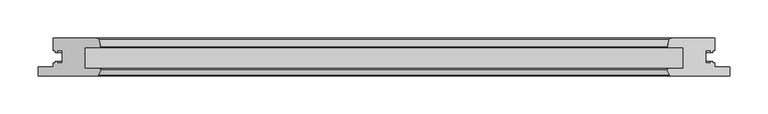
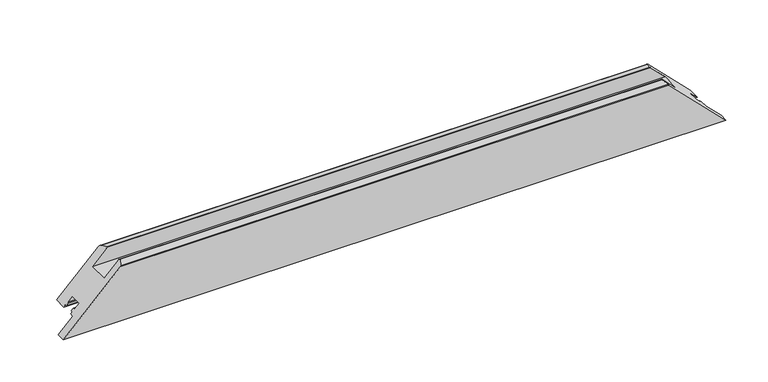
"""IFC4 building model written with IfcOpenShell, lengths in millimetres: proxy geometry, Weiku - Montante - Folha 02.2.01.017 : Weiku - Montante - Folha 02.2.01.017."""

from ifc_helpers import new_model, si_unit, frame, origin, place, context, project, spatial, ellipse_curve, source, transform, mapped, element, save
from ifc_brep_helpers import plane_surface, cylinder_surface, advanced_brep


def generic_models_3c9cb760(model_context):
    return source(origin(), model_context, "Body", "AdvancedBrep", [
        advanced_brep(
        [(-434.0, 50.0, 20.0), (-376.9997332, 50.0, 77.0002668), (376.9997332, 50.0, 77.0002668), (434.0, 50.0, 20.0), (-454.0, 0.0, 0.0), (454.0, 0.0, 0.0), (375.9872264, 0.0, 78.0127736), (-375.9872264, 0.0, 78.0127736), (-434.0, 33.1, 20.0), (-431.8, 33.1, 22.2), (-431.8, 31.1, 22.2), (-429.0, 31.1, 25.0), (-429.0, 33.1, 25.0), (-422.5, 33.1, 31.5), (-422.5, 16.9, 31.5), (-429.0, 16.9, 25.0), (-429.0, 18.9, 25.0), (-431.8, 18.9, 22.2), (-431.8, 16.9, 22.2), (-434.0, 16.9, 20.0), (-434.0, 11.5, 20.0), (-454.0, 11.5, 0.0), (-375.0932657, 0.5518546, 78.9067343), (-371.5512796, 7.617411, 82.4487204), (-372.7134285, 9.5, 81.2865715), (-392.5, 9.5, 61.5), (-392.5, 37.5, 61.5), (-372.0, 37.5, 82.0), (-371.5170371, 38.1294095, 82.4829629), (-374.1019557, 47.7764571, 79.8980443), (374.1019557, 47.7764571, 79.8980443), (371.5170371, 38.1294095, 82.4829629), (372.0, 37.5, 82.0), (392.5, 37.5, 61.5), (392.5, 9.5, 61.5), (372.7134285, 9.5, 81.2865715), (371.5512796, 7.617411, 82.4487204), (375.0932657, 0.5518546, 78.9067343), (454.0, 11.5, 0.0), (434.0, 11.5, 20.0), (434.0, 16.9, 20.0), (431.8, 16.9, 22.2), (431.8, 18.9, 22.2), (429.0, 18.9, 25.0), (429.0, 16.9, 25.0), (422.5, 16.9, 31.5), (422.5, 33.1, 31.5), (429.0, 33.1, 25.0), (429.0, 31.1, 25.0), (431.8, 31.1, 22.2), (431.8, 33.1, 22.2), (434.0, 33.1, 20.0)],
        [
            (0, 1),
            (1, 2),
            (2, 3),
            (3, 0),
            (4, 5),
            (5, 6),
            (6, 7),
            (7, 4),
            (0, 8),
            (8, 9),
            (9, 10),
            (10, 11),
            (11, 12),
            (12, 13),
            (13, 14),
            (14, 15),
            (15, 16),
            (16, 17),
            (17, 18),
            (18, 19),
            (19, 20),
            (20, 21),
            (21, 4),
            (7, 22, ellipse_curve(frame((-375.9872264, 1.0, 78.0127736), z_axis=(-0.7071067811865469, 0.0, 0.7071067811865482), x_axis=(-0.707106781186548, 0.0, -0.7071067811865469)), 1.4142136, 1.0)),
            (22, 23),
            (23, 24, ellipse_curve(frame((-372.7134285, 8.2, 81.2865715), z_axis=(-0.7071067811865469, 0.0, 0.7071067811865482), x_axis=(-0.707106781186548, 0.0, -0.7071067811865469)), 1.8384776, 1.3)),
            (24, 25),
            (25, 26),
            (26, 27),
            (27, 28, ellipse_curve(frame((-372.0, 38.0, 82.0), z_axis=(-0.7071067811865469, 0.0, 0.7071067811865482), x_axis=(-0.707106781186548, 0.0, -0.7071067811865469)), 0.7071068, 0.5)),
            (28, 29),
            (29, 1, ellipse_curve(frame((-376.9997332, 47.0, 77.0002668), z_axis=(-0.7071067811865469, 0.0, 0.7071067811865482), x_axis=(-0.707106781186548, 0.0, -0.7071067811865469)), 4.2426407, 3.0)),
            (2, 30, ellipse_curve(frame((376.9997332, 47.0, 77.0002668), z_axis=(0.7071067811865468, 0.0, 0.7071067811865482), x_axis=(-0.7071067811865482, 0.0, 0.7071067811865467)), 4.2426407, 3.0)),
            (30, 31),
            (31, 32, ellipse_curve(frame((372.0, 38.0, 82.0), z_axis=(0.7071067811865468, 0.0, 0.7071067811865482), x_axis=(-0.7071067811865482, 0.0, 0.7071067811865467)), 0.7071068, 0.5)),
            (32, 33),
            (33, 34),
            (34, 35),
            (35, 36, ellipse_curve(frame((372.7134285, 8.2, 81.2865715), z_axis=(0.7071067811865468, 0.0, 0.7071067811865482), x_axis=(-0.7071067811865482, 0.0, 0.7071067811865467)), 1.8384776, 1.3)),
            (36, 37),
            (37, 6, ellipse_curve(frame((375.9872264, 1.0, 78.0127736), z_axis=(0.7071067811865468, 0.0, 0.7071067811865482), x_axis=(-0.7071067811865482, 0.0, 0.7071067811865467)), 1.4142136, 1.0)),
            (5, 38),
            (38, 39),
            (39, 40),
            (40, 41),
            (41, 42),
            (42, 43),
            (43, 44),
            (44, 45),
            (45, 46),
            (46, 47),
            (47, 48),
            (48, 49),
            (49, 50),
            (50, 51),
            (51, 3),
            (37, 22),
            (36, 23),
            (35, 24),
            (34, 25),
            (33, 26),
            (32, 27),
            (31, 28),
            (30, 29),
            (51, 8),
            (50, 9),
            (49, 10),
            (48, 11),
            (47, 12),
            (46, 13),
            (45, 14),
            (44, 15),
            (43, 16),
            (42, 17),
            (41, 18),
            (40, 19),
            (39, 20),
            (38, 21),
        ],
        [
            plane_surface(frame((-454.0, 50.0, 77.0002668), z_axis=(0.0, 1.0, 0.0), x_axis=(1.0, 0.0, 0.0))),
            plane_surface(frame((-454.0, 0.0, 0.0), z_axis=(0.0, -1.0, 0.0), x_axis=(1.0, 0.0, 0.0))),
            plane_surface(frame((-482.2842712, 0.0, -28.2842712), z_axis=(-0.7071067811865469, 0.0, 0.7071067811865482), x_axis=(0.0, 1.0, 0.0))),
            plane_surface(frame((364.0, 0.0, 90.0), z_axis=(0.7071067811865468, 0.0, 0.7071067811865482), x_axis=(0.0, 1.0, 0.0))),
            cylinder_surface(frame((-454.0, 1.0, 78.0127736), z_axis=(-1.0, 0.0, 0.0), x_axis=(0.0, 1.0, 0.0)), 1.0),
            plane_surface(frame((-454.0, 0.5518546, 78.9067343), z_axis=(0.0, -0.4481453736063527, 0.8939606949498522), x_axis=(1.0, 0.0, 0.0))),
            cylinder_surface(frame((-454.0, 8.2, 81.2865715), z_axis=(-1.0, 0.0, 0.0), x_axis=(0.0, 1.0, 0.0)), 1.3),
            plane_surface(frame((-454.0, 9.5, 81.2865715), z_axis=(0.0, 1.0, 0.0), x_axis=(1.0, 0.0, 0.0))),
            plane_surface(frame((-454.0, 9.5, 61.5), z_axis=(0.0, 0.0, 1.0), x_axis=(1.0, 0.0, 0.0))),
            plane_surface(frame((-454.0, 37.5, 61.5), z_axis=(0.0, -1.0, 0.0), x_axis=(1.0, 0.0, 0.0))),
            cylinder_surface(frame((-454.0, 38.0, 82.0), z_axis=(-1.0, 0.0, 0.0), x_axis=(0.0, 1.0, 0.0)), 0.5),
            plane_surface(frame((-454.0, 38.1294095, 82.4829629), z_axis=(0.0, 0.2588190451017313, 0.9659258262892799), x_axis=(1.0, 0.0, 0.0))),
            cylinder_surface(frame((-454.0, 47.0, 77.0002668), z_axis=(-1.0, 0.0, 0.0), x_axis=(0.0, 1.0, 0.0)), 3.0),
            plane_surface(frame((-454.0, 50.0, 20.0), z_axis=(0.0, 0.0, -1.0), x_axis=(1.0, 0.0, 0.0))),
            plane_surface(frame((-454.0, 33.1, 20.0), z_axis=(0.0, -1.0, 0.0), x_axis=(1.0, 0.0, 0.0))),
            plane_surface(frame((-454.0, 33.1, 22.2), z_axis=(0.0, 0.0, -1.0), x_axis=(1.0, 0.0, 0.0))),
            plane_surface(frame((-454.0, 31.1, 22.2), z_axis=(0.0, -1.0, 0.0), x_axis=(1.0, 0.0, 0.0))),
            plane_surface(frame((-454.0, 31.1, 25.0), z_axis=(0.0, 0.0, 1.0), x_axis=(1.0, 0.0, 0.0))),
            plane_surface(frame((-454.0, 33.1, 25.0), z_axis=(0.0, -1.0, 0.0), x_axis=(1.0, 0.0, 0.0))),
            plane_surface(frame((-454.0, 33.1, 31.5), z_axis=(0.0, 0.0, -1.0), x_axis=(1.0, 0.0, 0.0))),
            plane_surface(frame((-454.0, 16.9, 31.5), z_axis=(0.0, 1.0, 0.0), x_axis=(1.0, 0.0, 0.0))),
            plane_surface(frame((-454.0, 16.9, 25.0), z_axis=(0.0, 0.0, 1.0), x_axis=(1.0, 0.0, 0.0))),
            plane_surface(frame((-454.0, 18.9, 25.0), z_axis=(0.0, 1.0, 0.0), x_axis=(1.0, 0.0, 0.0))),
            plane_surface(frame((-454.0, 18.9, 22.2), z_axis=(0.0, 0.0, -1.0), x_axis=(1.0, 0.0, 0.0))),
            plane_surface(frame((-454.0, 16.9, 22.2), z_axis=(0.0, 1.0, 0.0), x_axis=(1.0, 0.0, 0.0))),
            plane_surface(frame((-454.0, 16.9, 20.0), z_axis=(0.0, 0.0, -1.0), x_axis=(1.0, 0.0, 0.0))),
            plane_surface(frame((-454.0, 11.5, 20.0), z_axis=(0.0, 1.0, 0.0), x_axis=(1.0, 0.0, 0.0))),
            plane_surface(frame((-454.0, 11.5, 0.0), z_axis=(0.0, 0.0, -1.0), x_axis=(1.0, 0.0, 0.0))),
        ],
        [
            (0, [[1, 2, 3, 4]]),
            (1, [[5, 6, 7, 8]]),
            (2, [[-1, 9, 10, 11, 12, 13, 14, 15, 16, 17, 18, 19, 20, 21, 22, 23, -8, 24, 25, 26, 27, 28, 29, 30, 31, 32]]),
            (3, [[-3, 33, 34, 35, 36, 37, 38, 39, 40, 41, -6, 42, 43, 44, 45, 46, 47, 48, 49, 50, 51, 52, 53, 54, 55, 56]]),
            (4, [[-24, -7, -41, 57]]),
            (5, [[-25, -57, -40, 58]]),
            (6, [[-26, -58, -39, 59]]),
            (7, [[-27, -59, -38, 60]]),
            (8, [[-28, -60, -37, 61]]),
            (9, [[-29, -61, -36, 62]]),
            (10, [[-30, -62, -35, 63]]),
            (11, [[-31, -63, -34, 64]]),
            (12, [[-32, -64, -33, -2]]),
            (13, [[-9, -4, -56, 65]]),
            (14, [[-10, -65, -55, 66]]),
            (15, [[-11, -66, -54, 67]]),
            (16, [[-12, -67, -53, 68]]),
            (17, [[-13, -68, -52, 69]]),
            (18, [[-14, -69, -51, 70]]),
            (19, [[-15, -70, -50, 71]]),
            (20, [[-16, -71, -49, 72]]),
            (21, [[-17, -72, -48, 73]]),
            (22, [[-18, -73, -47, 74]]),
            (23, [[-19, -74, -46, 75]]),
            (24, [[-20, -75, -45, 76]]),
            (25, [[-21, -76, -44, 77]]),
            (26, [[78, -22, -77, -43]]),
            (27, [[-5, -23, -78, -42]]),
        ],
    ),
    ])


if __name__ == "__main__":
    model = new_model("IFC4")
    model_context = context("Model", 3, world=origin())
    ifc_project = project(units=[si_unit("LENGTHUNIT", "METRE", prefix="MILLI")], contexts=[model_context])
    site = spatial("IfcSite", under=ifc_project)
    building = spatial("IfcBuilding", under=site)
    placement = place(None, origin())
    generic_models_shape = generic_models_3c9cb760(model_context)
    element("IfcBuildingElementProxy", 1, Name="Weiku - Montante - Folha 02.2.01.017 : Weiku - Montante - Folha 02.2.01.017", ObjectType="Weiku - Montante - Folha 02.2.01.017 : Weiku - Montante - Folha 02.2.01.017", at=placement, inside=building, context=model_context, shape_type="MappedRepresentation", body=[
        mapped(generic_models_shape, transform((0.0, 0.0, 0.0), x_axis=(1.0, 0.0, 0.0), y_axis=(0.0, 1.0, 0.0), z_axis=(0.0, 0.0, 1.0))),
    ])
    save(model, "model.ifc")
